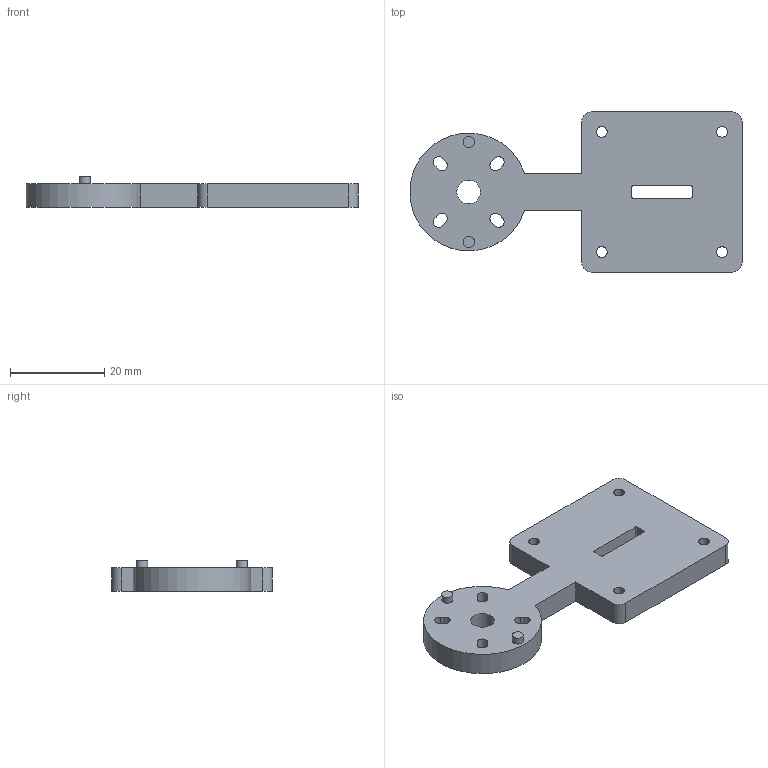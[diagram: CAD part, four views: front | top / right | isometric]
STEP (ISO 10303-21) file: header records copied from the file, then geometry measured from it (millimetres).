
FILE_DESCRIPTION(('Open CASCADE Model'),'2;1');
FILE_NAME('Open CASCADE Shape Model','2026-10-11T00:34:15',('Author'),( 'Open CASCADE'),'Open CASCADE STEP processor 7.8','Open CASCADE 7.8' ,'Unknown');
FILE_SCHEMA(('AUTOMOTIVE_DESIGN { 1 0 10303 214 1 1 1 1 }'));
Length unit declared in the file: millimetre
Products named in the file (1): Open CASCADE STEP translator 7.8 2
Bounding box: 70.45 x 34 x 6.5 mm (x, y, z)
Volume: 8220.8 mm3; surface area: 4962 mm2
Topology: 1 solids, 1 shells, 47 faces, 129 edges, 86 vertices
Faces by surface type: cylinder 24, plane 23
Full cylindrical faces by diameter (mm): 2.3 x4, 2.4 x2, 5 x1
Entity records: 3282 total; most frequent: CARTESIAN_POINT 657, DIRECTION 495, LINE 275, VECTOR 275, ORIENTED_EDGE 258, PCURVE 258, DEFINITIONAL_REPRESENTATION 258, EDGE_CURVE 129
